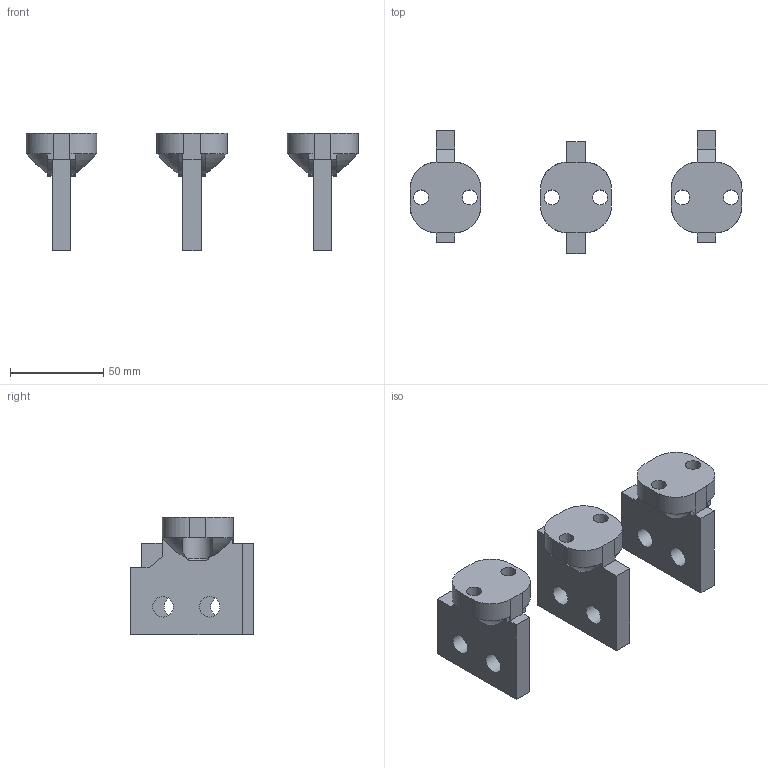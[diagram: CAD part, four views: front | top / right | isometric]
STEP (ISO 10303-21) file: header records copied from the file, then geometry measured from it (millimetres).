
FILE_DESCRIPTION(('STEP AP203'), '1');
FILE_NAME('雞碭噊 瞂貗鴀. 10擤 瞂贂', '', ('UNSPECIFIED'), ('UNSPECIFIED'), 'C3D Converter', 'C3D Toolkit', '');
FILE_SCHEMA(('CONFIG_CONTROL_DESIGN'));
Length unit declared in the file: millimetre
Assembly tree (3 placements, depth 2):
  (unnamed)
    (unnamed)
    (unnamed)
    (unnamed)
Bounding box: 178 x 66 x 63 mm (x, y, z)
Volume: 127498.9 mm3; surface area: 36599.2 mm2
Topology: 3 solids, 3 shells, 174 faces, 450 edges, 282 vertices
Faces by surface type: plane 102, cylinder 30, bspline 26, torus 16
Full cylindrical faces by diameter (mm): 8 x6, 11 x6
Entity records: 9124 total; most frequent: CARTESIAN_POINT 3488, ORIENTED_EDGE 876, DIRECTION 748, EDGE_CURVE 438, VERTEX_POINT 282, AXIS2_PLACEMENT_3D 250, LINE 248, VECTOR 248
